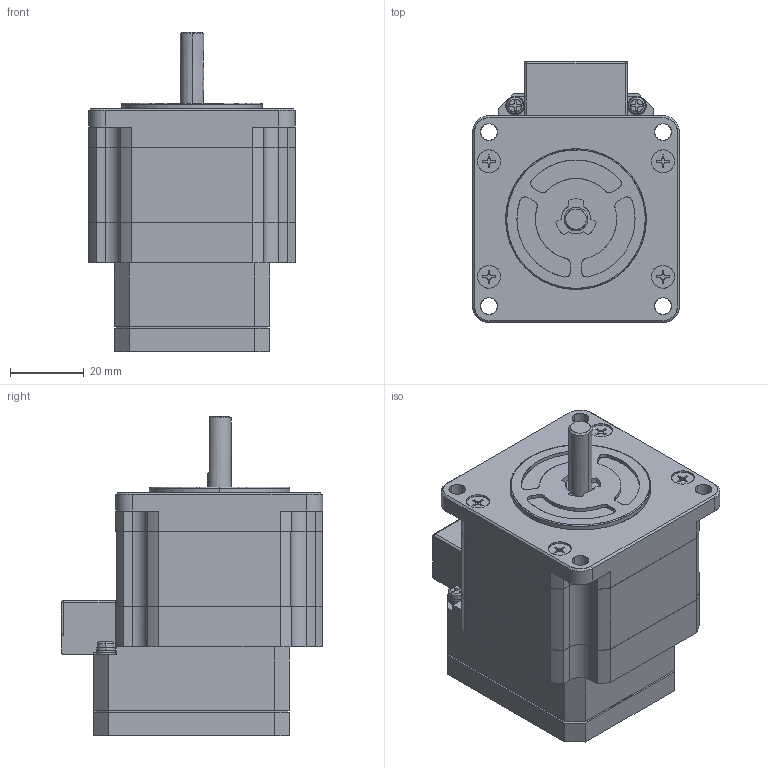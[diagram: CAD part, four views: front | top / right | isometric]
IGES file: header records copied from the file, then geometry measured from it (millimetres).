
Start section: SolidWorks IGES file using analytic representation for surfaces
Global section: file name: 8HC:\Documents and Settings\3DCAD\デスクトップ\liujie\CM1新型ケース\HP図\CM1-＊-23S30C.IGS; native system: SolidWorks 2010; preprocessor: SolidWorks 2010; author: 3DCAD; date: 110120.190034; units: millimetre
Bounding box: 56 x 70.81 x 86.4 mm (x, y, z)
Surface area: 27429.7 mm2 (no closed solid volume)
Topology: 0 solids, 0 shells, 905 faces, 6731 edges, 6715 vertices
Faces by surface type: bspline 632, revolution 273
